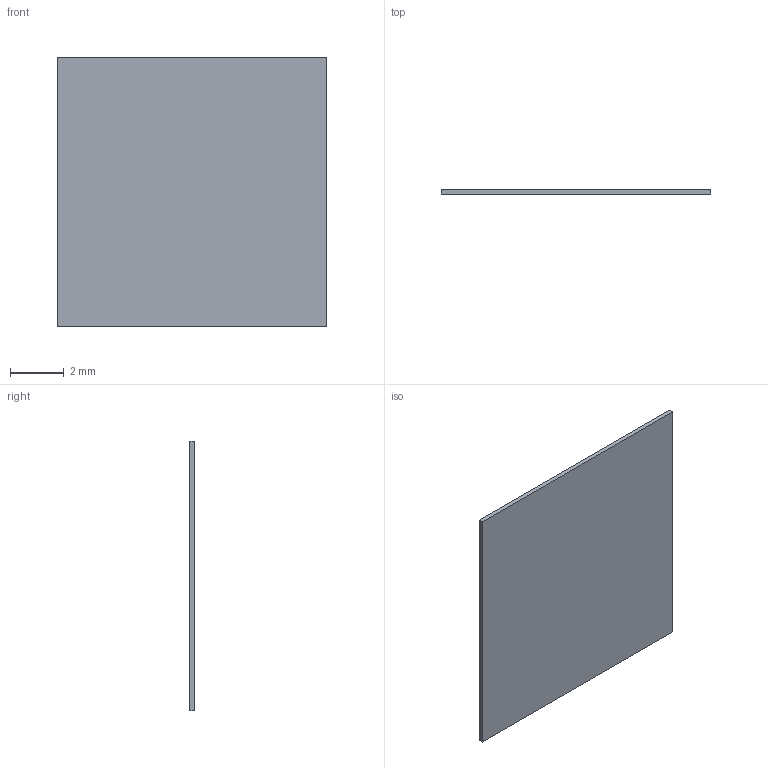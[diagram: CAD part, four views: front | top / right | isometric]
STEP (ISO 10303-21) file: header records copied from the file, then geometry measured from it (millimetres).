
FILE_DESCRIPTION (( 'STEP AP203' ), '1' );
FILE_NAME ('cuvetteglass.STEP', '2023-03-24T22:58:55', ( '' ), ( '' ), 'SwSTEP 2.0', 'SolidWorks 2021', '' );
FILE_SCHEMA (( 'CONFIG_CONTROL_DESIGN' ));
Length unit declared in the file: millimetre
Products named in the file (1): cuvetteglass
Bounding box: 10 x 0.17 x 10 mm (x, y, z)
Volume: 17 mm3; surface area: 206.8 mm2
Topology: 1 solids, 1 shells, 6 faces, 12 edges, 8 vertices
Faces by surface type: plane 6
Entity records: 233 total; most frequent: CARTESIAN_POINT 27, DIRECTION 26, ORIENTED_EDGE 24, EDGE_CURVE 12, VECTOR 12, LINE 12, PERSON_AND_ORGANIZATION 8, VERTEX_POINT 8
